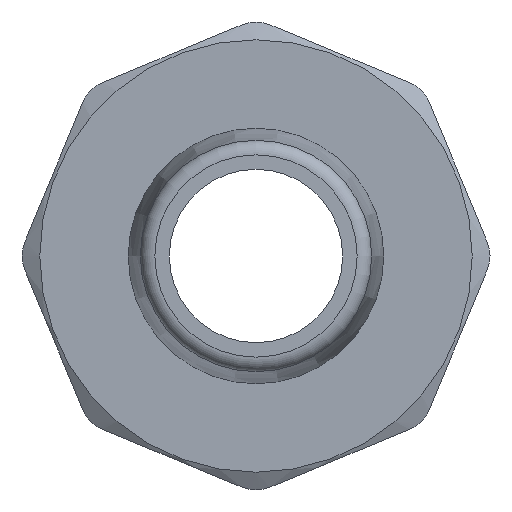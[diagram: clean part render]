
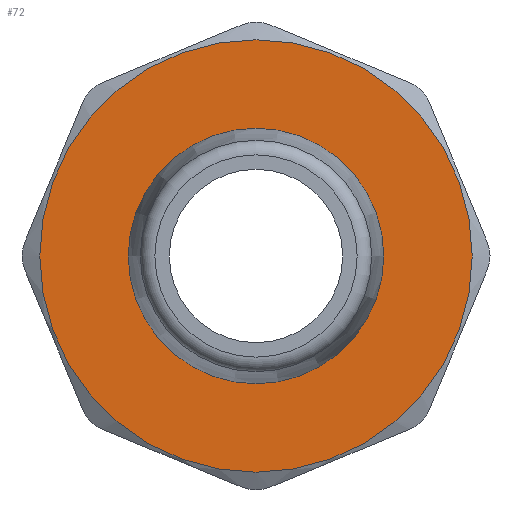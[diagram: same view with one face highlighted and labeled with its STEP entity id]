
A CAD part, front view. The second image highlights one B-rep face of the part: STEP entity #72.
In plain terms, the highlighted planar face has unit normal (0, -1, 0).
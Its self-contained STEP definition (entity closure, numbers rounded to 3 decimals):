
#72=ADVANCED_FACE('',(#301,#303),#305,.F.);
#301=FACE_BOUND('',#302,.T.);
#302=EDGE_LOOP('',(#506));
#303=FACE_BOUND('',#304,.T.);
#304=EDGE_LOOP('',(#507));
#305=PLANE('',#306);
#306=AXIS2_PLACEMENT_3D('',#307,#308,#309);
#307=CARTESIAN_POINT('',(0.,-15.,0.));
#308=DIRECTION('',(0.,1.,0.));
#309=DIRECTION('',(-1.,0.,0.));
#506=ORIENTED_EDGE('',*,*,#586,.T.);
#507=ORIENTED_EDGE('',*,*,#588,.F.);
#586=EDGE_CURVE('',#703,#703,#704,.F.);
#588=EDGE_CURVE('',#707,#707,#708,.T.);
#703=VERTEX_POINT('',#1955);
#704=CIRCLE('',#1956,11.85);
#707=VERTEX_POINT('',#1965);
#708=CIRCLE('',#1966,7.);
#1955=CARTESIAN_POINT('',(11.85,-15.,0.));
#1956=AXIS2_PLACEMENT_3D('',#1957,#1958,#1959);
#1957=CARTESIAN_POINT('',(0.,-15.,0.));
#1958=DIRECTION('',(0.,1.,0.));
#1959=DIRECTION('',(1.,0.,0.));
#1965=CARTESIAN_POINT('',(-7.,-15.,0.));
#1966=AXIS2_PLACEMENT_3D('',#1967,#1968,#1969);
#1967=CARTESIAN_POINT('',(0.,-15.,0.));
#1968=DIRECTION('',(0.,-1.,0.));
#1969=DIRECTION('',(-1.,0.,0.));
